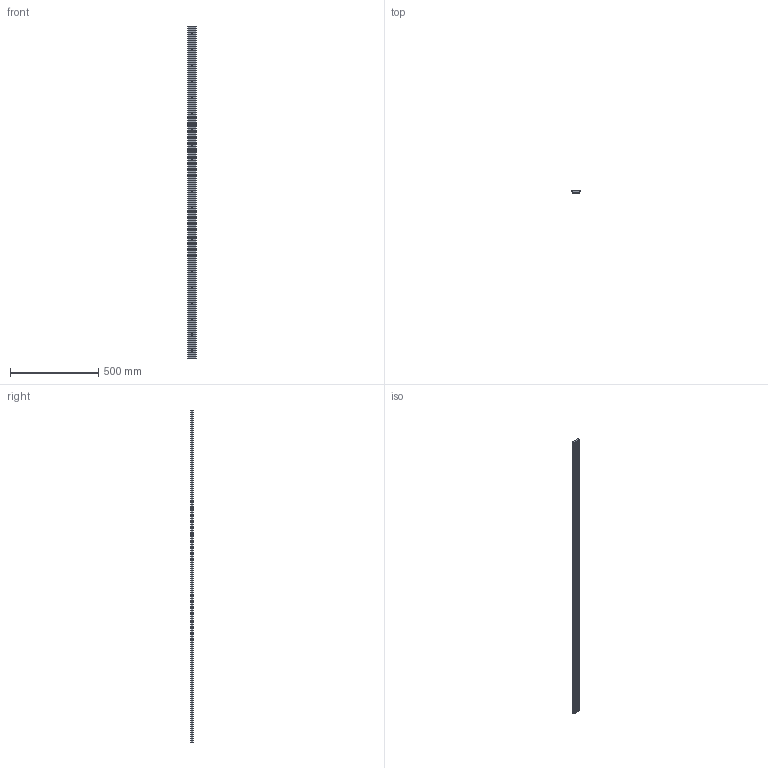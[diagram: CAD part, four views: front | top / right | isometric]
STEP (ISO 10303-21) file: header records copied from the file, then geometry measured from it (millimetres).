
FILE_DESCRIPTION(('STEP AP203'),'1');
FILE_NAME('slide_ns50l1886p2.stp','2022-07-01T04:38:07',('TraceParts'),('TraceParts S.A.'),'Spatial InterOp 3D',' ',' ');
FILE_SCHEMA(('CONFIG_CONTROL_DESIGN'));
Length unit declared in the file: millimetre
Products named in the file (1): 1
Bounding box: 49.61 x 12.66 x 1886 mm (x, y, z)
Volume: 867389.4 mm3; surface area: 249871.6 mm2
Topology: 1 solids, 1 shells, 149 faces, 378 edges, 252 vertices
Faces by surface type: cylinder 100, plane 49
Entity records: 4720 total; most frequent: DIRECTION 878, CARTESIAN_POINT 780, ORIENTED_EDGE 756, EDGE_CURVE 378, AXIS2_PLACEMENT_3D 350, VERTEX_POINT 252, EDGE_LOOP 212, CIRCLE 200
